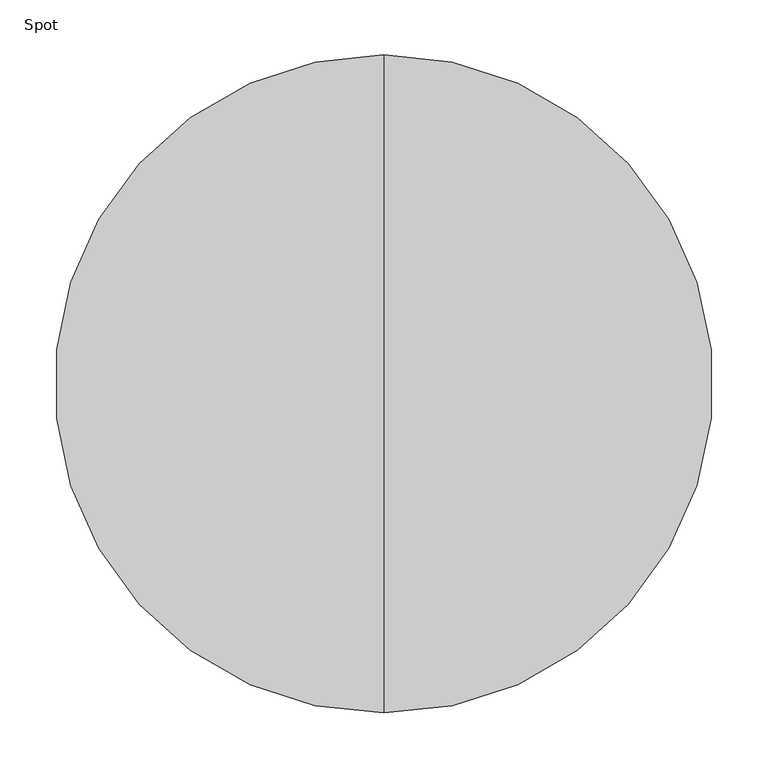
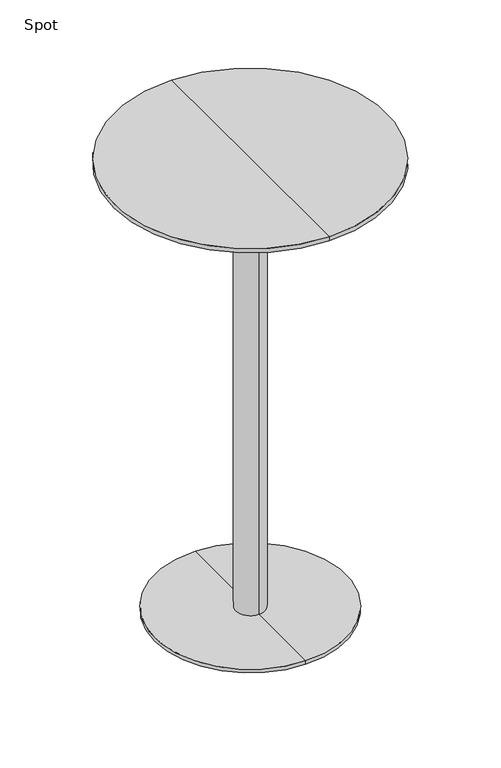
"""IFC4 building model written with IfcOpenShell, lengths in millimetres: furniture geometry, Spot : ø60x105."""

from ifc_helpers import new_model, si_unit, frame, origin, place, context, project, spatial, polyline, circle_curve, source, transform, mapped, element, save
from ifc_brep_helpers import plane_surface, cylinder_surface, revolved_surface, advanced_brep


def spot_b00c288a(model_context):
    return source(origin(), model_context, "Body", "AdvancedBrep", [
        advanced_brep(
        [(0.0, 300.0, 1050.0), (0.0, -300.0, 1050.0), (0.0, 0.0, 1050.0), (0.0, 300.0, 1040.25), (0.0, -300.0, 1040.25), (0.0, 254.2823776, 1028.0), (0.0, -254.2823776, 1028.0), (0.0, 0.0, 1028.0)],
        [
            (0, 1, circle_curve(frame((0.0, 0.0, 1050.0), z_axis=(0.0, 0.0, 1.0), x_axis=(0.0, -1.0, 0.0)), 300.0)),
            (1, 2),
            (2, 0),
            (1, 0, circle_curve(frame((0.0, 0.0, 1050.0), z_axis=(0.0, 0.0, 1.0), x_axis=(0.0, -1.0, 0.0)), 300.0)),
            (3, 4, circle_curve(frame((0.0, 0.0, 1040.25), z_axis=(0.0, 0.0, 1.0), x_axis=(0.0, -1.0, 0.0)), 300.0)),
            (4, 1),
            (0, 3),
            (4, 3, circle_curve(frame((0.0, 0.0, 1040.25), z_axis=(0.0, 0.0, 1.0), x_axis=(0.0, -1.0, 0.0)), 300.0)),
            (5, 6, circle_curve(frame((0.0, 0.0, 1028.0), z_axis=(0.0, 0.0, 1.0), x_axis=(0.0, -1.0, 0.0)), 254.2823776)),
            (6, 4),
            (3, 5),
            (6, 5, circle_curve(frame((0.0, 0.0, 1028.0), z_axis=(0.0, 0.0, 1.0), x_axis=(0.0, -1.0, 0.0)), 254.2823776)),
            (7, 6),
            (5, 7),
        ],
        [
            plane_surface(frame((0.0, 0.0, 1050.0), z_axis=(0.0, 0.0, 1.0), x_axis=(0.0, -1.0, 0.0))),
            cylinder_surface(frame((0.0, 0.0, 1130.0), z_axis=(0.0, 0.0, -1.0), x_axis=(0.0, -1.0, 0.0)), 300.0),
            revolved_surface(polyline([(0.0, -300.0, 1040.25), (0.0, -254.2823776, 1028.0)]), (0.0, 0.0, 1130.0), (0.0, 0.0, -1.0)),
            plane_surface(frame((0.0, 0.0, 1028.0), z_axis=(0.0, 0.0, -1.0), x_axis=(0.0, -1.0, 0.0))),
        ],
        [
            (0, [[1, 2, 3]]),
            (0, [[4, -3, -2]]),
            (1, [[5, 6, -1, 7]]),
            (1, [[8, -7, -4, -6]]),
            (2, [[9, 10, -5, 11]]),
            (2, [[12, -11, -8, -10]]),
            (3, [[13, -9, 14]]),
            (3, [[-14, -12, -13]]),
        ],
    ),
        advanced_brep(
        [(0.0, 32.0, 10.0), (0.0, -32.0, 10.0), (0.0, -32.0, 997.406916), (0.0, 32.0, 997.406916), (0.0, 210.0, 10.0), (0.0, -210.0, 10.0), (0.0, 210.0, 2.0), (0.0, -210.0, 2.0), (0.0, 0.0, 2.0), (0.0, 150.0, 1028.0), (0.0, -150.0, 1028.0), (0.0, 0.0, 1028.0), (0.0, 150.0, 1016.7213673), (0.0, -150.0, 1016.7213673)],
        [
            (0, 1, circle_curve(frame((0.0, 0.0, 10.0), z_axis=(0.0, 0.0, 1.0), x_axis=(0.0, -1.0, 0.0)), 32.0)),
            (1, 2),
            (2, 3, circle_curve(frame((0.0, 0.0, 997.406916), z_axis=(0.0, 0.0, -1.0), x_axis=(0.0, -1.0, 0.0)), 32.0)),
            (3, 0),
            (1, 0, circle_curve(frame((0.0, 0.0, 10.0), z_axis=(0.0, 0.0, 1.0), x_axis=(0.0, -1.0, 0.0)), 32.0)),
            (3, 2, circle_curve(frame((0.0, 0.0, 997.406916), z_axis=(0.0, 0.0, -1.0), x_axis=(0.0, -1.0, 0.0)), 32.0)),
            (4, 5, circle_curve(frame((0.0, 0.0, 10.0), z_axis=(0.0, 0.0, 1.0), x_axis=(0.0, -1.0, 0.0)), 210.0)),
            (5, 1),
            (0, 4),
            (5, 4, circle_curve(frame((0.0, 0.0, 10.0), z_axis=(0.0, 0.0, 1.0), x_axis=(0.0, -1.0, 0.0)), 210.0)),
            (6, 7, circle_curve(frame((0.0, 0.0, 2.0), z_axis=(0.0, 0.0, 1.0), x_axis=(0.0, -1.0, 0.0)), 210.0)),
            (7, 5),
            (4, 6),
            (7, 6, circle_curve(frame((0.0, 0.0, 2.0), z_axis=(0.0, 0.0, 1.0), x_axis=(0.0, -1.0, 0.0)), 210.0)),
            (8, 7),
            (6, 8),
            (9, 10, circle_curve(frame((0.0, 0.0, 1028.0), z_axis=(0.0, 0.0, 1.0), x_axis=(0.0, -1.0, 0.0)), 150.0)),
            (10, 11),
            (11, 9),
            (10, 9, circle_curve(frame((0.0, 0.0, 1028.0), z_axis=(0.0, 0.0, 1.0), x_axis=(0.0, -1.0, 0.0)), 150.0)),
            (12, 13, circle_curve(frame((0.0, 0.0, 1016.7213673), z_axis=(0.0, 0.0, 1.0), x_axis=(0.0, -1.0, 0.0)), 150.0)),
            (13, 10),
            (9, 12),
            (13, 12, circle_curve(frame((0.0, 0.0, 1016.7213673), z_axis=(0.0, 0.0, 1.0), x_axis=(0.0, -1.0, 0.0)), 150.0)),
            (2, 13),
            (12, 3),
        ],
        [
            cylinder_surface(frame((0.0, 0.0, 1390.0), z_axis=(0.0, 0.0, -1.0), x_axis=(0.0, -1.0, 0.0)), 32.0),
            plane_surface(frame((0.0, 0.0, 10.0), z_axis=(0.0, 0.0, 1.0), x_axis=(0.0, -1.0, 0.0))),
            cylinder_surface(frame((0.0, 0.0, 1390.0), z_axis=(0.0, 0.0, -1.0), x_axis=(0.0, -1.0, 0.0)), 210.0),
            plane_surface(frame((0.0, 0.0, 2.0), z_axis=(0.0, 0.0, -1.0), x_axis=(0.0, -1.0, 0.0))),
            plane_surface(frame((0.0, 0.0, 1028.0), z_axis=(0.0, 0.0, 1.0), x_axis=(0.0, -1.0, 0.0))),
            cylinder_surface(frame((0.0, 0.0, 1390.0), z_axis=(0.0, 0.0, -1.0), x_axis=(0.0, -1.0, 0.0)), 150.0),
            revolved_surface(polyline([(0.0, -150.0, 1016.7213673), (0.0, -32.0, 997.406916)]), (0.0, 0.0, 1390.0), (0.0, 0.0, -1.0)),
        ],
        [
            (0, [[1, 2, 3, 4]]),
            (0, [[5, -4, 6, -2]]),
            (1, [[7, 8, -1, 9]]),
            (1, [[10, -9, -5, -8]]),
            (2, [[11, 12, -7, 13]]),
            (2, [[14, -13, -10, -12]]),
            (3, [[15, -11, 16]]),
            (3, [[-16, -14, -15]]),
            (4, [[17, 18, 19]]),
            (4, [[20, -19, -18]]),
            (5, [[21, 22, -17, 23]]),
            (5, [[24, -23, -20, -22]]),
            (6, [[-3, 25, -21, 26]]),
            (6, [[-6, -26, -24, -25]]),
        ],
    ),
    ])


if __name__ == "__main__":
    model = new_model("IFC4")
    model_context = context("Model", 3, world=origin())
    ifc_project = project(units=[si_unit("LENGTHUNIT", "METRE", prefix="MILLI")], contexts=[model_context])
    site = spatial("IfcSite", under=ifc_project)
    building = spatial("IfcBuilding", under=site)
    placement = place(None, origin())
    spot_shape = spot_b00c288a(model_context)
    element("IfcFurniture", 1, ObjectType="Spot : ø60x105", at=placement, inside=building, context=model_context, shape_type="MappedRepresentation", body=[
        mapped(spot_shape, transform((0.0, 0.0, 0.0), x_axis=(1.0, 0.0, 0.0), y_axis=(0.0, 1.0, 0.0), z_axis=(0.0, 0.0, 1.0))),
    ])
    save(model, "model.ifc")
